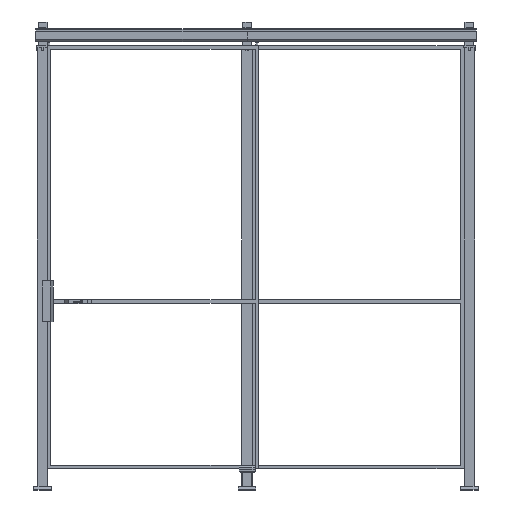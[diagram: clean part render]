
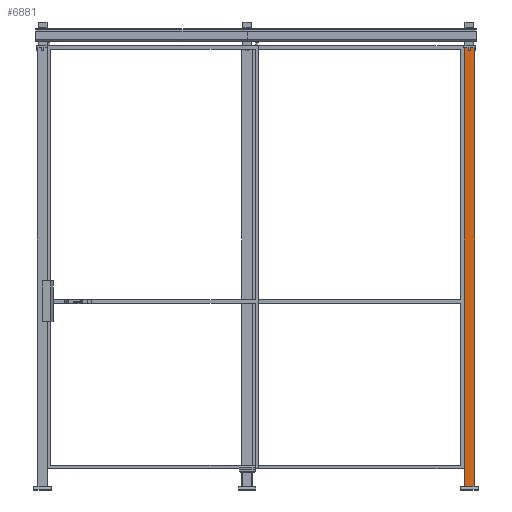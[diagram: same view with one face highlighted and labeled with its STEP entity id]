
A CAD part, front view. The second image highlights one B-rep face of the part: STEP entity #6881.
In plain terms, the highlighted planar face has unit normal (0, -1, 0).
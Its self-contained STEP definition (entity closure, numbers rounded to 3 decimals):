
#912=FACE_OUTER_BOUND('',#1247,.T.);
#1247=EDGE_LOOP('',(#5178,#5179,#5180,#5181));
#1775=LINE('',#10266,#2651);
#1777=LINE('',#10272,#2653);
#1780=LINE('',#10277,#2656);
#1781=LINE('',#10278,#2657);
#2651=VECTOR('',#8119,1.);
#2653=VECTOR('',#8123,1.);
#2656=VECTOR('',#8128,1.);
#2657=VECTOR('',#8129,1.);
#3386=VERTEX_POINT('',#10259);
#3389=VERTEX_POINT('',#10264);
#3391=VERTEX_POINT('',#10269);
#3392=VERTEX_POINT('',#10271);
#4091=EDGE_CURVE('',#3389,#3386,#1775,.T.);
#4093=EDGE_CURVE('',#3391,#3392,#1777,.T.);
#4096=EDGE_CURVE('',#3389,#3392,#1780,.T.);
#4097=EDGE_CURVE('',#3386,#3391,#1781,.T.);
#5178=ORIENTED_EDGE('',*,*,#4096,.T.);
#5179=ORIENTED_EDGE('',*,*,#4093,.F.);
#5180=ORIENTED_EDGE('',*,*,#4097,.F.);
#5181=ORIENTED_EDGE('',*,*,#4091,.F.);
#6587=PLANE('',#7259);
#6881=ADVANCED_FACE('',(#912),#6587,.F.);
#7259=AXIS2_PLACEMENT_3D('',#10276,#8126,#8127);
#8119=DIRECTION('',(1.,0.,0.));
#8123=DIRECTION('',(-1.,0.,0.));
#8126=DIRECTION('center_axis',(0.,1.,0.));
#8127=DIRECTION('ref_axis',(0.,0.,1.));
#8128=DIRECTION('',(0.,0.,-1.));
#8129=DIRECTION('',(0.,0.,-1.));
#10259=CARTESIAN_POINT('',(30.,-30.,2520.));
#10264=CARTESIAN_POINT('',(-30.,-30.,2520.));
#10266=CARTESIAN_POINT('',(0.,-30.,2520.));
#10269=CARTESIAN_POINT('',(30.,-30.,20.));
#10271=CARTESIAN_POINT('',(-30.,-30.,20.));
#10272=CARTESIAN_POINT('',(0.,-30.,20.));
#10276=CARTESIAN_POINT('Origin',(0.,-30.,
1270.));
#10277=CARTESIAN_POINT('',(-30.,-30.,1270.));
#10278=CARTESIAN_POINT('',(30.,-30.,1270.));
